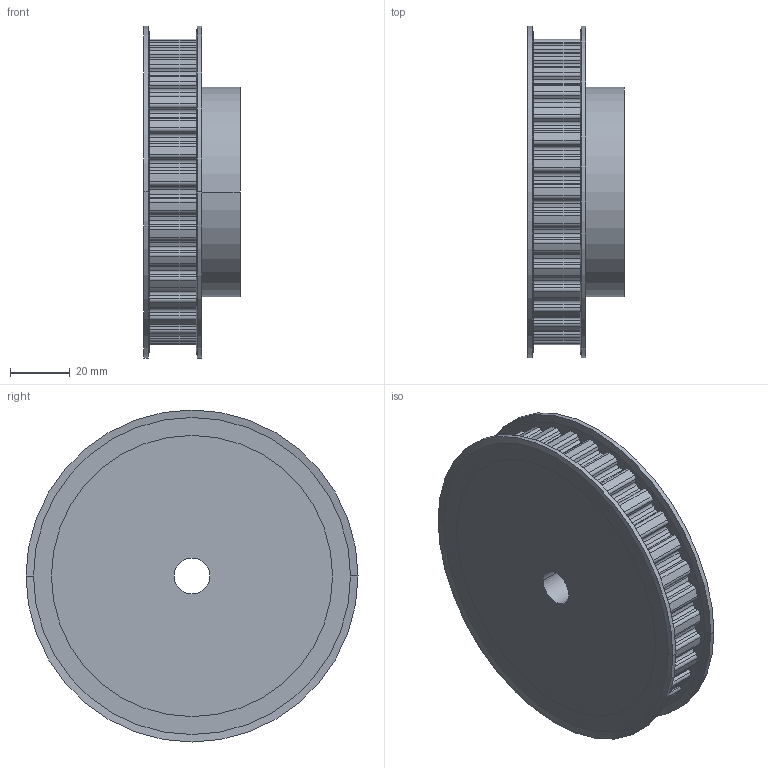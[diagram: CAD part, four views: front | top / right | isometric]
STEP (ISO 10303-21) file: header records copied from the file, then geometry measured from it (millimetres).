
FILE_DESCRIPTION( ( '' ), '1' );
FILE_NAME( 'C:/Users/Stangenbergd/Documents/CAD_Step/1/18213400.stp', '2021-10-19T10:35:49', ( '' ), ( '' ), ' ', ' ', ' ' );
FILE_SCHEMA( ( 'CONFIG_CONTROL_DESIGN' ) );
Length unit declared in the file: millimetre
Products named in the file (1): 1
Bounding box: 32.2 x 111 x 111 mm (x, y, z)
Volume: 200921.7 mm3; surface area: 34504.9 mm2
Topology: 1 solids, 1 shells, 299 faces, 868 edges, 576 vertices
Faces by surface type: cylinder 182, plane 109, cone 8
Entity records: 10058 total; most frequent: DIRECTION 1840, CARTESIAN_POINT 1744, ORIENTED_EDGE 1736, EDGE_CURVE 868, AXIS2_PLACEMENT_3D 672, VERTEX_POINT 576, LINE 496, VECTOR 496
